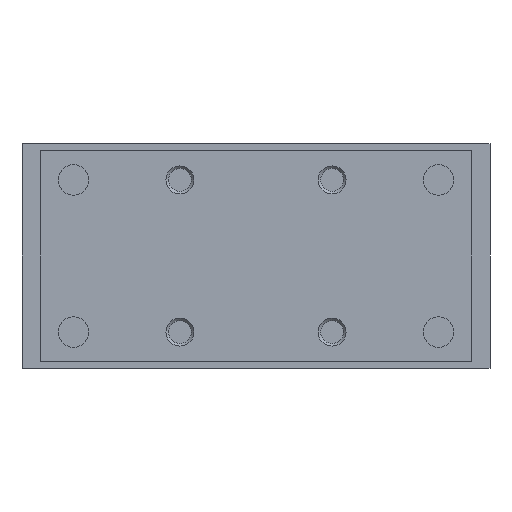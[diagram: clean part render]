
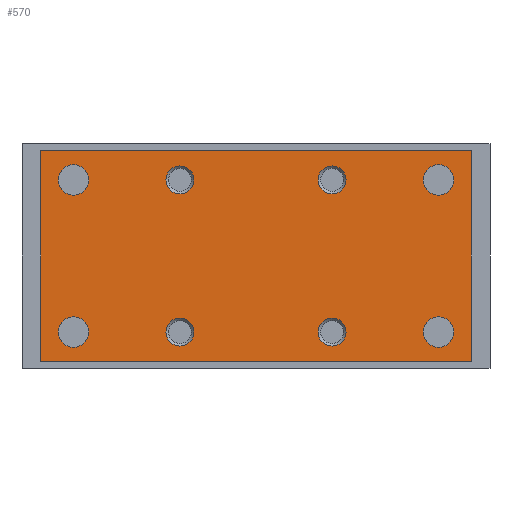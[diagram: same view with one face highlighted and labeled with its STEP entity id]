
A CAD part, left-side view. The second image highlights one B-rep face of the part: STEP entity #570.
In plain terms, the highlighted planar face has unit normal (-1, 0, 0).
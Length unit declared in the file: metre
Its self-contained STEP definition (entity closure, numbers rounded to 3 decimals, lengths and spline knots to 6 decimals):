
#570 = ADVANCED_FACE( '', ( #1310, #1311, #1312, #1313, #1314, #1315, #1316, #1317, #1318 ), #1319, .T. );
#1310 = FACE_BOUND( '', #2130, .T. );
#1311 = FACE_BOUND( '', #2131, .T. );
#1312 = FACE_BOUND( '', #2132, .T. );
#1313 = FACE_BOUND( '', #2133, .T. );
#1314 = FACE_BOUND( '', #2134, .T. );
#1315 = FACE_BOUND( '', #2135, .T. );
#1316 = FACE_BOUND( '', #2136, .T. );
#1317 = FACE_BOUND( '', #2137, .T. );
#1318 = FACE_OUTER_BOUND( '', #2138, .T. );
#1319 = PLANE( '', #2139 );
#2130 = EDGE_LOOP( '', ( #3472 ) );
#2131 = EDGE_LOOP( '', ( #3473 ) );
#2132 = EDGE_LOOP( '', ( #3474 ) );
#2133 = EDGE_LOOP( '', ( #3475 ) );
#2134 = EDGE_LOOP( '', ( #3476 ) );
#2135 = EDGE_LOOP( '', ( #3477 ) );
#2136 = EDGE_LOOP( '', ( #3478 ) );
#2137 = EDGE_LOOP( '', ( #3479 ) );
#2138 = EDGE_LOOP( '', ( #3480, #3481, #3482, #3483 ) );
#2139 = AXIS2_PLACEMENT_3D( '', #3484, #3485, #3486 );
#3472 = ORIENTED_EDGE( '', *, *, #4059, .F. );
#3473 = ORIENTED_EDGE( '', *, *, #4248, .F. );
#3474 = ORIENTED_EDGE( '', *, *, #4061, .F. );
#3475 = ORIENTED_EDGE( '', *, *, #4069, .F. );
#3476 = ORIENTED_EDGE( '', *, *, #3862, .T. );
#3477 = ORIENTED_EDGE( '', *, *, #3842, .F. );
#3478 = ORIENTED_EDGE( '', *, *, #4049, .F. );
#3479 = ORIENTED_EDGE( '', *, *, #3887, .T. );
#3480 = ORIENTED_EDGE( '', *, *, #4080, .T. );
#3481 = ORIENTED_EDGE( '', *, *, #4249, .T. );
#3482 = ORIENTED_EDGE( '', *, *, #3814, .T. );
#3483 = ORIENTED_EDGE( '', *, *, #3897, .T. );
#3484 = CARTESIAN_POINT( '', ( -0.06225, -0.046, -0.0015 ) );
#3485 = DIRECTION( '', ( -1., 0., 0. ) );
#3486 = DIRECTION( '', ( 0., 0., 1. ) );
#3814 = EDGE_CURVE( '', #4378, #4376, #4379, .T. );
#3842 = EDGE_CURVE( '', #4424, #4424, #4425, .T. );
#3862 = EDGE_CURVE( '', #4455, #4455, #4456, .T. );
#3887 = EDGE_CURVE( '', #4495, #4495, #4496, .T. );
#3897 = EDGE_CURVE( '', #4376, #4510, #4512, .T. );
#4049 = EDGE_CURVE( '', #4758, #4758, #4759, .T. );
#4059 = EDGE_CURVE( '', #4772, #4772, #4773, .T. );
#4061 = EDGE_CURVE( '', #4775, #4775, #4776, .T. );
#4069 = EDGE_CURVE( '', #4788, #4788, #4789, .T. );
#4080 = EDGE_CURVE( '', #4510, #4800, #4802, .T. );
#4248 = EDGE_CURVE( '', #5023, #5023, #5024, .T. );
#4249 = EDGE_CURVE( '', #4800, #4378, #5025, .T. );
#4376 = VERTEX_POINT( '', #5164 );
#4378 = VERTEX_POINT( '', #5167 );
#4379 = LINE( '', #5168, #5169 );
#4424 = VERTEX_POINT( '', #5225 );
#4425 = CIRCLE( '', #5226, 0.003 );
#4455 = VERTEX_POINT( '', #5263 );
#4456 = CIRCLE( '', #5264, 0.003 );
#4495 = VERTEX_POINT( '', #5307 );
#4496 = CIRCLE( '', #5308, 0.003 );
#4510 = VERTEX_POINT( '', #5328 );
#4512 = LINE( '', #5331, #5332 );
#4758 = VERTEX_POINT( '', #5698 );
#4759 = CIRCLE( '', #5699, 0.003 );
#4772 = VERTEX_POINT( '', #5712 );
#4773 = CIRCLE( '', #5713, 0.00325 );
#4775 = VERTEX_POINT( '', #5715 );
#4776 = CIRCLE( '', #5716, 0.00325 );
#4788 = VERTEX_POINT( '', #5733 );
#4789 = CIRCLE( '', #5734, 0.00325 );
#4800 = VERTEX_POINT( '', #5746 );
#4802 = LINE( '', #5749, #5750 );
#5023 = VERTEX_POINT( '', #6112 );
#5024 = CIRCLE( '', #6113, 0.00325 );
#5025 = LINE( '', #6114, #6115 );
#5164 = CARTESIAN_POINT( '', ( -0.06225, 0.046, -0.0465 ) );
#5167 = CARTESIAN_POINT( '', ( -0.06225, 0.046, -0.0015 ) );
#5168 = CARTESIAN_POINT( '', ( -0.06225, 0.046, -0.0015 ) );
#5169 = VECTOR( '', #6282, 1. );
#5225 = CARTESIAN_POINT( '', ( -0.06225, 0.01625, -0.03725 ) );
#5226 = AXIS2_PLACEMENT_3D( '', #6318, #6319, #6320 );
#5263 = CARTESIAN_POINT( '', ( -0.06225, -0.01625, -0.03725 ) );
#5264 = AXIS2_PLACEMENT_3D( '', #6343, #6344, #6345 );
#5307 = CARTESIAN_POINT( '', ( -0.06225, 0.01625, -0.01075 ) );
#5308 = AXIS2_PLACEMENT_3D( '', #6383, #6384, #6385 );
#5328 = CARTESIAN_POINT( '', ( -0.06225, -0.046, -0.0465 ) );
#5331 = CARTESIAN_POINT( '', ( -0.06225, 0.046, -0.0465 ) );
#5332 = VECTOR( '', #6393, 1. );
#5698 = CARTESIAN_POINT( '', ( -0.06225, -0.01625, -0.01075 ) );
#5699 = AXIS2_PLACEMENT_3D( '', #6613, #6614, #6615 );
#5712 = CARTESIAN_POINT( '', ( -0.06225, -0.04225, -0.04025 ) );
#5713 = AXIS2_PLACEMENT_3D( '', #6628, #6629, #6630 );
#5715 = CARTESIAN_POINT( '', ( -0.06225, -0.04225, -0.00775 ) );
#5716 = AXIS2_PLACEMENT_3D( '', #6631, #6632, #6633 );
#5733 = CARTESIAN_POINT( '', ( -0.06225, 0.03575, -0.00775 ) );
#5734 = AXIS2_PLACEMENT_3D( '', #6639, #6640, #6641 );
#5746 = CARTESIAN_POINT( '', ( -0.06225, -0.046, -0.0015 ) );
#5749 = CARTESIAN_POINT( '', ( -0.06225, -0.046, -0.0465 ) );
#5750 = VECTOR( '', #6650, 1. );
#6112 = CARTESIAN_POINT( '', ( -0.06225, 0.03575, -0.04025 ) );
#6113 = AXIS2_PLACEMENT_3D( '', #6810, #6811, #6812 );
#6114 = CARTESIAN_POINT( '', ( -0.06225, -0.046, -0.0015 ) );
#6115 = VECTOR( '', #6813, 1. );
#6282 = DIRECTION( '', ( 0., 0., -1. ) );
#6318 = CARTESIAN_POINT( '', ( -0.06225, 0.01625, -0.04025 ) );
#6319 = DIRECTION( '', ( -1., 0., 0. ) );
#6320 = DIRECTION( '', ( 0., 0., 1. ) );
#6343 = CARTESIAN_POINT( '', ( -0.06225, -0.01625, -0.04025 ) );
#6344 = DIRECTION( '', ( 1., 0., 0. ) );
#6345 = DIRECTION( '', ( 0., 0., 1. ) );
#6383 = CARTESIAN_POINT( '', ( -0.06225, 0.01625, -0.00775 ) );
#6384 = DIRECTION( '', ( 1., 0., 0. ) );
#6385 = DIRECTION( '', ( 0., 0., -1. ) );
#6393 = DIRECTION( '', ( 0., -1., 0. ) );
#6613 = CARTESIAN_POINT( '', ( -0.06225, -0.01625, -0.00775 ) );
#6614 = DIRECTION( '', ( -1., 0., 0. ) );
#6615 = DIRECTION( '', ( 0., 0., -1. ) );
#6628 = CARTESIAN_POINT( '', ( -0.06225, -0.039, -0.04025 ) );
#6629 = DIRECTION( '', ( -1., 0., 0. ) );
#6630 = DIRECTION( '', ( 0., -1., 0. ) );
#6631 = CARTESIAN_POINT( '', ( -0.06225, -0.039, -0.00775 ) );
#6632 = DIRECTION( '', ( -1., 0., 0. ) );
#6633 = DIRECTION( '', ( 0., -1., 0. ) );
#6639 = CARTESIAN_POINT( '', ( -0.06225, 0.039, -0.00775 ) );
#6640 = DIRECTION( '', ( -1., 0., 0. ) );
#6641 = DIRECTION( '', ( 0., -1., 0. ) );
#6650 = DIRECTION( '', ( 0., 0., 1. ) );
#6810 = CARTESIAN_POINT( '', ( -0.06225, 0.039, -0.04025 ) );
#6811 = DIRECTION( '', ( -1., 0., 0. ) );
#6812 = DIRECTION( '', ( 0., -1., 0. ) );
#6813 = DIRECTION( '', ( 0., 1., 0. ) );
